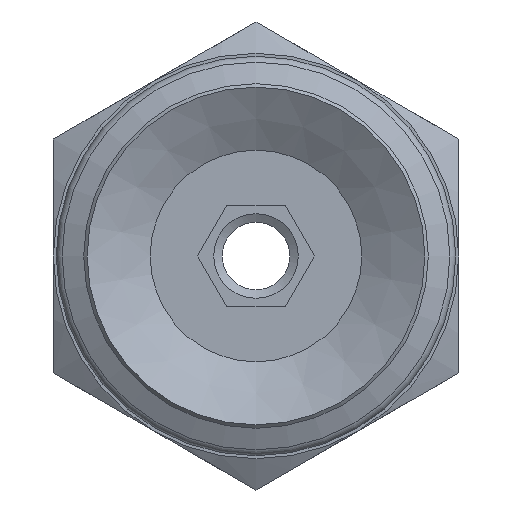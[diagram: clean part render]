
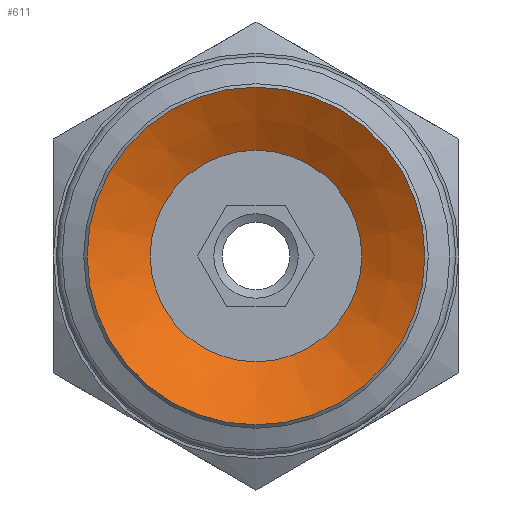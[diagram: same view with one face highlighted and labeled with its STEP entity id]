
A CAD part, front view. The second image highlights one B-rep face of the part: STEP entity #611.
In plain terms, the highlighted conical face has half-angle 60 degrees and reference radius 3.133 mm.
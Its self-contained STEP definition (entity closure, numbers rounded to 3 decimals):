
#611=ADVANCED_FACE('',(#908,#909),#910,.F.);
#908=FACE_BOUND('',#1226,.T.);
#909=FACE_OUTER_BOUND('',#1227,.T.);
#910=CONICAL_SURFACE('',#1228,3.133,1.047);
#1226=EDGE_LOOP('',(#1937));
#1227=EDGE_LOOP('',(#1938));
#1228=AXIS2_PLACEMENT_3D('',#1939,#1940,#1941);
#1937=ORIENTED_EDGE('',*,*,#2159,.F.);
#1938=ORIENTED_EDGE('',*,*,#2168,.T.);
#1939=CARTESIAN_POINT('',(0.0,7.659,0.));
#1940=DIRECTION('',(-0.0,-1.0,0.));
#1941=DIRECTION('',(0.0,0.,-1.0));
#2159=EDGE_CURVE('',#2465,#2465,#2466,.T.);
#2168=EDGE_CURVE('',#2483,#2483,#2484,.T.);
#2465=VERTEX_POINT('',#2987);
#2466=CIRCLE('',#2988,3.133);
#2483=VERTEX_POINT('',#3005);
#2484=CIRCLE('',#3006,5.0);
#2987=CARTESIAN_POINT('',(0.0,7.659,-3.133));
#2988=AXIS2_PLACEMENT_3D('',#3304,#3305,#3306);
#3005=CARTESIAN_POINT('',(0.0,6.581,-5.0));
#3006=AXIS2_PLACEMENT_3D('',#3331,#3332,#3333);
#3304=CARTESIAN_POINT('',(0.0,7.659,0.));
#3305=DIRECTION('',(0.0,-1.0,0.));
#3306=DIRECTION('',(0.0,0.,-1.0));
#3331=CARTESIAN_POINT('',(0.0,6.581,0.0));
#3332=DIRECTION('',(0.0,-1.0,0.));
#3333=DIRECTION('',(0.0,0.,-1.0));
